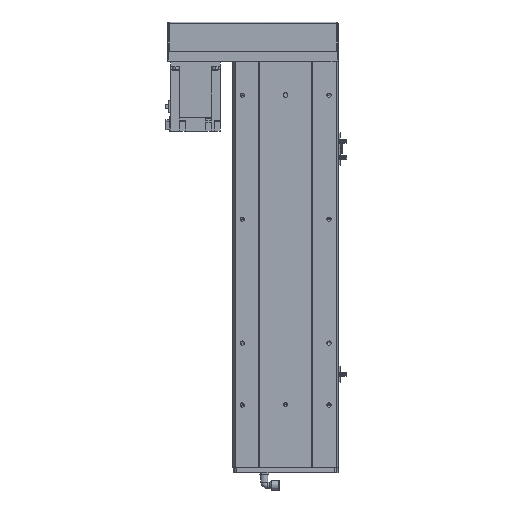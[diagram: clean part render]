
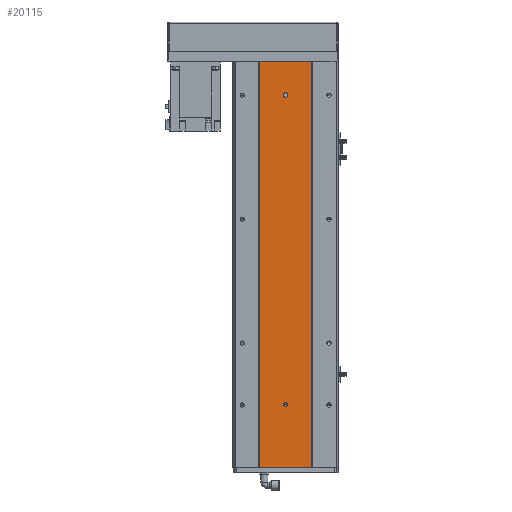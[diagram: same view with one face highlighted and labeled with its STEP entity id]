
A CAD part, top view. The second image highlights one B-rep face of the part: STEP entity #20115.
In plain terms, the highlighted planar face has unit normal (0, 0, 1).
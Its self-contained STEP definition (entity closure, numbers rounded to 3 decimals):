
#51 = DIRECTION ( 'NONE',  ( 0., 0., 1. ) ) ;
#1043 = ORIENTED_EDGE ( 'NONE', *, *, #12049, .F. ) ;
#1844 = EDGE_CURVE ( 'NONE', #3532, #2071, #33363, .T. ) ;
#2071 = VERTEX_POINT ( 'NONE', #13073 ) ;
#2252 = ORIENTED_EDGE ( 'NONE', *, *, #1844, .F. ) ;
#2341 = DIRECTION ( 'NONE',  ( 1., 0., 0. ) ) ;
#2754 = EDGE_CURVE ( 'NONE', #13358, #30811, #49824, .T. ) ;
#2807 = CARTESIAN_POINT ( 'NONE',  ( -42., -655., 40.499 ) ) ;
#3347 = ORIENTED_EDGE ( 'NONE', *, *, #8015, .F. ) ;
#3532 = VERTEX_POINT ( 'NONE', #13034 ) ;
#3930 = LINE ( 'NONE', #23435, #13853 ) ;
#6117 = AXIS2_PLACEMENT_3D ( 'NONE', #13013, #51, #29672 ) ;
#7147 = EDGE_CURVE ( 'NONE', #2071, #7371, #44257, .T. ) ;
#7371 = VERTEX_POINT ( 'NONE', #34362 ) ;
#8015 = EDGE_CURVE ( 'NONE', #13993, #3532, #9739, .T. ) ;
#9326 = AXIS2_PLACEMENT_3D ( 'NONE', #12252, #12437, #20432 ) ;
#9739 = CIRCLE ( 'NONE', #50708, 3. ) ;
#9770 = VERTEX_POINT ( 'NONE', #39124 ) ;
#11614 = VECTOR ( 'NONE', #36273, 1000. ) ;
#12049 = EDGE_CURVE ( 'NONE', #9770, #28722, #40279, .T. ) ;
#12252 = CARTESIAN_POINT ( 'NONE',  ( 0., -554., 40.499 ) ) ;
#12437 = DIRECTION ( 'NONE',  ( 0., 0., 1. ) ) ;
#13013 = CARTESIAN_POINT ( 'NONE',  ( 0., -554., 40.499 ) ) ;
#13034 = CARTESIAN_POINT ( 'NONE',  ( -3., -54., 40.499 ) ) ;
#13073 = CARTESIAN_POINT ( 'NONE',  ( -3., -56., 40.499 ) ) ;
#13358 = VERTEX_POINT ( 'NONE', #2807 ) ;
#13853 = VECTOR ( 'NONE', #32324, 1000. ) ;
#13993 = VERTEX_POINT ( 'NONE', #43549 ) ;
#17612 = CARTESIAN_POINT ( 'NONE',  ( -42., -655., 40.499 ) ) ;
#17783 = AXIS2_PLACEMENT_3D ( 'NONE', #23443, #40869, #2341 ) ;
#18527 = EDGE_CURVE ( 'NONE', #13993, #7371, #3930, .T. ) ;
#18715 = CARTESIAN_POINT ( 'NONE',  ( 42., -655., 40.499 ) ) ;
#18760 = AXIS2_PLACEMENT_3D ( 'NONE', #28019, #40242, #44862 ) ;
#18954 = CARTESIAN_POINT ( 'NONE',  ( 42., -655., 40.499 ) ) ;
#19571 = EDGE_CURVE ( 'NONE', #30811, #34078, #37978, .T. ) ;
#20115 = ADVANCED_FACE ( 'NONE', ( #51197, #33300, #35938 ), #36586, .T. ) ;
#20432 = DIRECTION ( 'NONE',  ( 1., 0., 0. ) ) ;
#21801 = VERTEX_POINT ( 'NONE', #18954 ) ;
#22216 = CARTESIAN_POINT ( 'NONE',  ( -42., 0., 40.499 ) ) ;
#22813 = LINE ( 'NONE', #30729, #34753 ) ;
#22899 = ORIENTED_EDGE ( 'NONE', *, *, #46618, .F. ) ;
#23047 = EDGE_LOOP ( 'NONE', ( #1043, #22899 ) ) ;
#23435 = CARTESIAN_POINT ( 'NONE',  ( 3., -54., 40.499 ) ) ;
#23443 = CARTESIAN_POINT ( 'NONE',  ( -42., -655., 40.499 ) ) ;
#23869 = CARTESIAN_POINT ( 'NONE',  ( -3., -54., 40.499 ) ) ;
#24779 = ORIENTED_EDGE ( 'NONE', *, *, #7147, .F. ) ;
#25145 = EDGE_CURVE ( 'NONE', #21801, #34078, #52741, .T. ) ;
#25294 = VECTOR ( 'NONE', #42613, 1000. ) ;
#28019 = CARTESIAN_POINT ( 'NONE',  ( 0., -56., 40.499 ) ) ;
#28601 = ORIENTED_EDGE ( 'NONE', *, *, #2754, .F. ) ;
#28722 = VERTEX_POINT ( 'NONE', #43375 ) ;
#28746 = VECTOR ( 'NONE', #49417, 1000. ) ;
#29672 = DIRECTION ( 'NONE',  ( 1., 0., 0. ) ) ;
#30556 = ORIENTED_EDGE ( 'NONE', *, *, #25145, .T. ) ;
#30729 = CARTESIAN_POINT ( 'NONE',  ( -42., -655., 40.499 ) ) ;
#30811 = VERTEX_POINT ( 'NONE', #41838 ) ;
#31558 = ORIENTED_EDGE ( 'NONE', *, *, #49648, .T. ) ;
#32324 = DIRECTION ( 'NONE',  ( 0., -1., 0. ) ) ;
#32739 = CARTESIAN_POINT ( 'NONE',  ( 0., -54., 40.499 ) ) ;
#33300 = FACE_BOUND ( 'NONE', #43370, .T. ) ;
#33363 = LINE ( 'NONE', #23869, #28746 ) ;
#34078 = VERTEX_POINT ( 'NONE', #43267 ) ;
#34362 = CARTESIAN_POINT ( 'NONE',  ( 3., -56., 40.499 ) ) ;
#34753 = VECTOR ( 'NONE', #35005, 1000. ) ;
#35005 = DIRECTION ( 'NONE',  ( 1., 0., 0. ) ) ;
#35938 = FACE_OUTER_BOUND ( 'NONE', #39252, .T. ) ;
#36273 = DIRECTION ( 'NONE',  ( 0., 1., 0. ) ) ;
#36586 = PLANE ( 'NONE',  #17783 ) ;
#36674 = VECTOR ( 'NONE', #47769, 1000. ) ;
#37978 = LINE ( 'NONE', #22216, #36674 ) ;
#39124 = CARTESIAN_POINT ( 'NONE',  ( 3., -554., 40.499 ) ) ;
#39252 = EDGE_LOOP ( 'NONE', ( #46305, #28601, #31558, #30556 ) ) ;
#40242 = DIRECTION ( 'NONE',  ( 0., 0., 1. ) ) ;
#40279 = CIRCLE ( 'NONE', #9326, 3. ) ;
#40869 = DIRECTION ( 'NONE',  ( 0., 0., 1. ) ) ;
#41838 = CARTESIAN_POINT ( 'NONE',  ( -42., 0., 40.499 ) ) ;
#42613 = DIRECTION ( 'NONE',  ( 0., 1., 0. ) ) ;
#43267 = CARTESIAN_POINT ( 'NONE',  ( 42., 0., 40.499 ) ) ;
#43370 = EDGE_LOOP ( 'NONE', ( #3347, #45661, #24779, #2252 ) ) ;
#43375 = CARTESIAN_POINT ( 'NONE',  ( -3., -554., 40.499 ) ) ;
#43549 = CARTESIAN_POINT ( 'NONE',  ( 3., -54., 40.499 ) ) ;
#44257 = CIRCLE ( 'NONE', #18760, 3. ) ;
#44862 = DIRECTION ( 'NONE',  ( 1., 0., 0. ) ) ;
#45661 = ORIENTED_EDGE ( 'NONE', *, *, #18527, .T. ) ;
#46305 = ORIENTED_EDGE ( 'NONE', *, *, #19571, .F. ) ;
#46618 = EDGE_CURVE ( 'NONE', #28722, #9770, #53971, .T. ) ;
#47769 = DIRECTION ( 'NONE',  ( 1., 0., 0. ) ) ;
#49417 = DIRECTION ( 'NONE',  ( 0., -1., 0. ) ) ;
#49648 = EDGE_CURVE ( 'NONE', #13358, #21801, #22813, .T. ) ;
#49824 = LINE ( 'NONE', #17612, #25294 ) ;
#50708 = AXIS2_PLACEMENT_3D ( 'NONE', #32739, #54448, #54266 ) ;
#51197 = FACE_BOUND ( 'NONE', #23047, .T. ) ;
#52741 = LINE ( 'NONE', #18715, #11614 ) ;
#53971 = CIRCLE ( 'NONE', #6117, 3. ) ;
#54266 = DIRECTION ( 'NONE',  ( 1., 0., 0. ) ) ;
#54448 = DIRECTION ( 'NONE',  ( 0., 0., 1. ) ) ;
